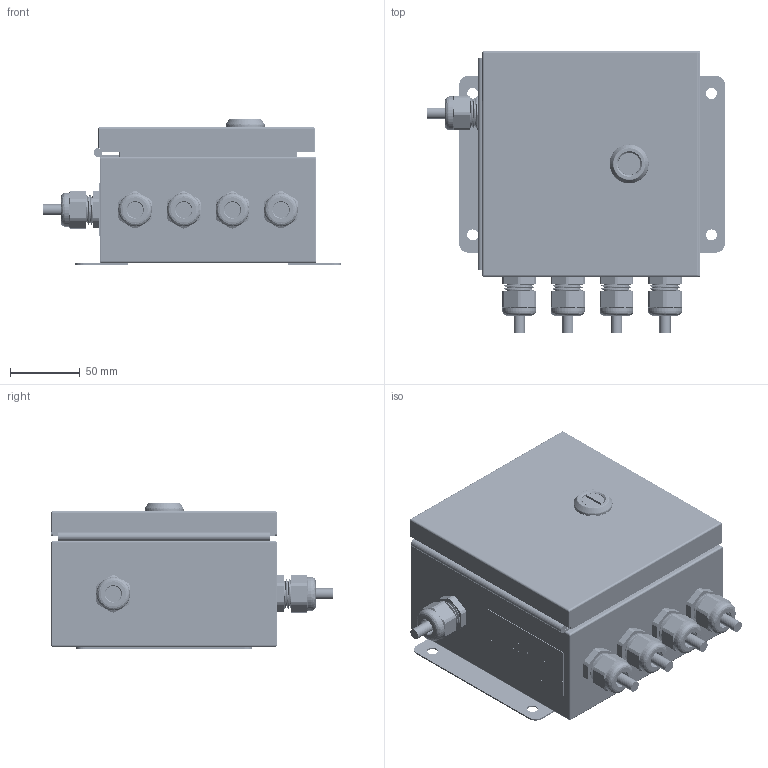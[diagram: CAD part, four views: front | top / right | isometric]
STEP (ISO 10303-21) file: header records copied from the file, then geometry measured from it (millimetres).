
FILE_DESCRIPTION (( 'STEP AP203' ), '1' );
FILE_NAME ('HI6020IT-SS2.STEP', '2023-09-28T20:42:17', ( '' ), ( '' ), 'SwSTEP 2.0', 'SolidWorks 2020', '' );
FILE_SCHEMA (( 'CONFIG_CONTROL_DESIGN' ));
Length unit declared in the file: inch
Products named in the file (35): 0530-0851-01-0; 2140-0137-07-0; 0508-0929-XX-002_ENCLOSURE DOOR; Southco-E5-6-0024-UU1_E5_Phillips_Slot_Hex_Screw_clf_STD-QTL-SCREW_1; 0534-0573-01-0; 2140-0136-07-0; 0508-0929-XX-006_ENCLOSURE DOOR GASKET; 0530-0710-01-0; 97H9231-27ZA3_12C6_1; Southco-E5-6-0024-UU1_E5_Plastic_Driver(Slotted)_clf_STD-QTL-SLOTTED-INSERT_1; 0508-0929-05-0_Default_DOOR CLOSED; 6007-0097-0; flush stud_pmi_97H7202-26188_1; HI6020XX-SSY Model-Serial Label; blind standoff_pmi_97H5125-26300_1; 0535-0573-XX-0; 0508-0929-05-0_ENCLOSURE CASE_0508-0929-05-0_ENCLOSURE CASE; Southco-E5-6-0024-UU1_E5_Plastic_Housing_clf_STD-QTL-HOUSING_1; 2817-0182_90400A219; QTL-HOUSING-ASSY_97H9230-26300_1; 2140-0137-09-0; 1658A6_Piano Hinge with Holes_KEEP-B_1; 1658A6_Piano Hinge with Holes_KEEP-A_1; BRKY-00409_BRKT-00409_1; 2814-0095-0; flush stud_pmi_97H7301-26188_1; machine screw nut hex_ai_97H1401-26188_1; HI6020IT-SS2; Southco-E5-6-0024-UU1_O-Ring_clf_97H9930-13VIT_1; hardy-flange_MFW-HOL-00409_1; Southco-E5-6-0024-UU1_E5_Sealing_Washer(Compressed)_clf_1; 0529-0024-01-0; 4617-0010-0; hex nut_ai_97H1112-27ZA3_1; Southco-E5-6-0024-UU1_Nut_clf_STD-QTL-NUT_1
Assembly tree (67 placements, depth 4):
  HI6020IT-SS2
    0535-0573-XX-0
      0534-0573-01-0
      4617-0010-0  x4
      2140-0136-07-0  x4
      2140-0137-07-0  x4
      2140-0137-09-0  x2
    2817-0182_90400A219  x4
    HI6020XX-SSY Model-Serial Label
    0530-0710-01-0
    6007-0097-0  x5
    2814-0095-0  x5
    0529-0024-01-0  x5
    0508-0929-05-0_Default_DOOR CLOSED
      0508-0929-05-0_ENCLOSURE CASE_0508-0929-05-0_ENCLOSURE CASE
      flush stud_pmi_97H7202-26188_1  x2
      flush stud_pmi_97H7301-26188_1  x2
      hardy-flange_MFW-HOL-00409_1  x2
      BRKY-00409_BRKT-00409_1
      blind standoff_pmi_97H5125-26300_1  x4
      machine screw nut hex_ai_97H1401-26188_1  x2
      hex nut_ai_97H1112-27ZA3_1  x2
      1658A6_Piano Hinge with Holes_KEEP-A_1
      1658A6_Piano Hinge with Holes_KEEP-B_1
      0508-0929-XX-002_ENCLOSURE DOOR
      97H9231-27ZA3_12C6_1
      QTL-HOUSING-ASSY_97H9230-26300_1
        Southco-E5-6-0024-UU1_E5_Plastic_Driver(Slotted)_clf_STD-QTL-SLOTTED-INSERT_1
        Southco-E5-6-0024-UU1_E5_Sealing_Washer(Compressed)_clf_1
        Southco-E5-6-0024-UU1_Nut_clf_STD-QTL-NUT_1
        Southco-E5-6-0024-UU1_E5_Plastic_Housing_clf_STD-QTL-HOUSING_1
        Southco-E5-6-0024-UU1_E5_Phillips_Slot_Hex_Screw_clf_STD-QTL-SCREW_1
        Southco-E5-6-0024-UU1_O-Ring_clf_97H9930-13VIT_1
      0508-0929-XX-006_ENCLOSURE DOOR GASKET
    0530-0851-01-0
Bounding box: 213.8 x 203.09 x 104.41 mm (x, y, z)
Volume: 348955.2 mm3; surface area: 467662.4 mm2
Topology: 697 solids, 701 shells, 18037 faces, 46715 edges, 30615 vertices
Faces by surface type: plane 10234, bspline 4384, cylinder 2765, cone 458, torus 124, sphere 72
Entity records: 516574 total; most frequent: CARTESIAN_POINT 226581, ORIENTED_EDGE 66514, DIRECTION 43761, EDGE_CURVE 33257, VERTEX_POINT 21948, LINE 21461, VECTOR 21461, EDGE_LOOP 13651
